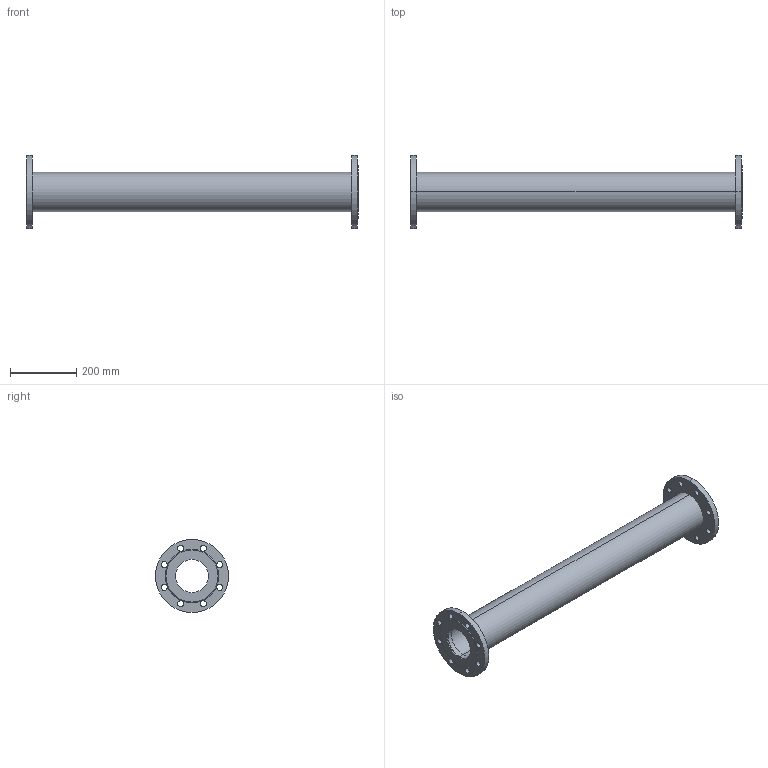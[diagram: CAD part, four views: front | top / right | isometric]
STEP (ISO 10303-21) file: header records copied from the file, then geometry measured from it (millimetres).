
FILE_DESCRIPTION(('STEP AP214'),'1');
FILE_NAME('U:/VDI-Daten/8500/8500_PN16_DN100_L1000.STP','2012-06-12T15:06:00',(' '),(' '),'Spatial InterOp 3D',' ',' ');
FILE_SCHEMA(('automotive_design'));
Length unit declared in the file: millimetre
Products named in the file (5): 3D-Objekt
Bounding box: 1000 x 220 x 220 mm (x, y, z)
Volume: 4055294.5 mm3; surface area: 898339.8 mm2
Topology: 5 solids, 5 shells, 62 faces, 156 edges, 104 vertices
Faces by surface type: cylinder 48, plane 10, cone 4
Entity records: 2621 total; most frequent: DIRECTION 394, CARTESIAN_POINT 327, ORIENTED_EDGE 312, AXIS2_PLACEMENT_3D 171, EDGE_CURVE 156, EDGE_LOOP 104, VERTEX_POINT 104, CIRCLE 104
